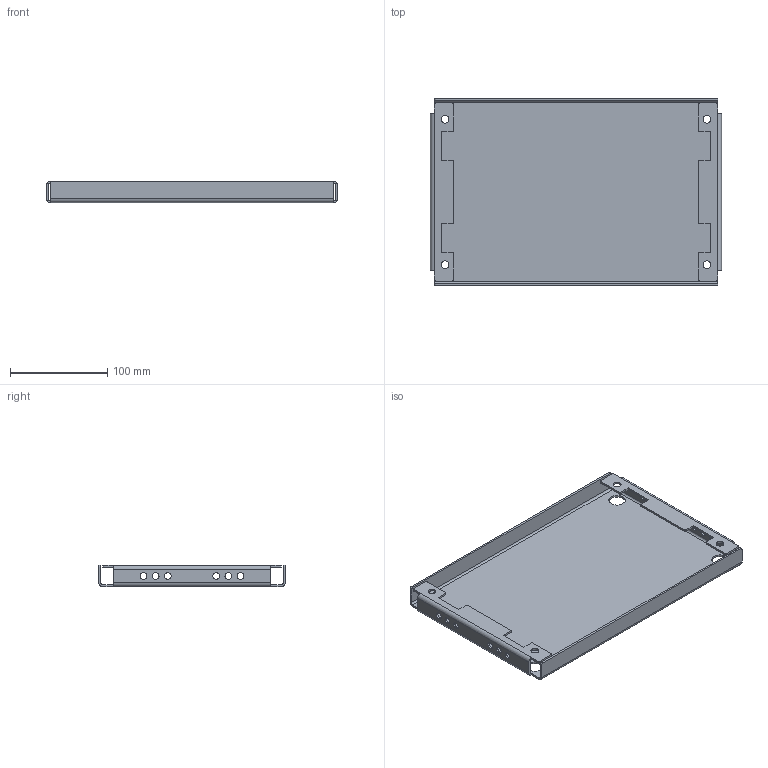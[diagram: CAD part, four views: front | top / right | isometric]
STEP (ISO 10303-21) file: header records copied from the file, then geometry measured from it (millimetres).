
FILE_DESCRIPTION(('STEP AP203'), '1');
FILE_NAME('3550 Ñåêöèîííàÿ ìîíòàæíàÿ ïàíåëü', '', ('UNSPECIFIED'), ('UNSPECIFIED'), 'C3D Converter', 'C3D Toolkit', '');
FILE_SCHEMA(('CONFIG_CONTROL_DESIGN'));
Length unit declared in the file: millimetre
Products named in the file (1): 3550.20.40
Bounding box: 300 x 192 x 22 mm (x, y, z)
Volume: 157469.7 mm3; surface area: 161395.4 mm2
Topology: 1 solids, 1 shells, 118 faces, 300 edges, 184 vertices
Faces by surface type: plane 66, cylinder 52
Full cylindrical faces by diameter (mm): 7 x12, 8 x4, 17 x4
Entity records: 3544 total; most frequent: DIRECTION 622, CARTESIAN_POINT 583, ORIENTED_EDGE 560, EDGE_CURVE 280, AXIS2_PLACEMENT_3D 223, VERTEX_POINT 184, EDGE_LOOP 178, LINE 176
